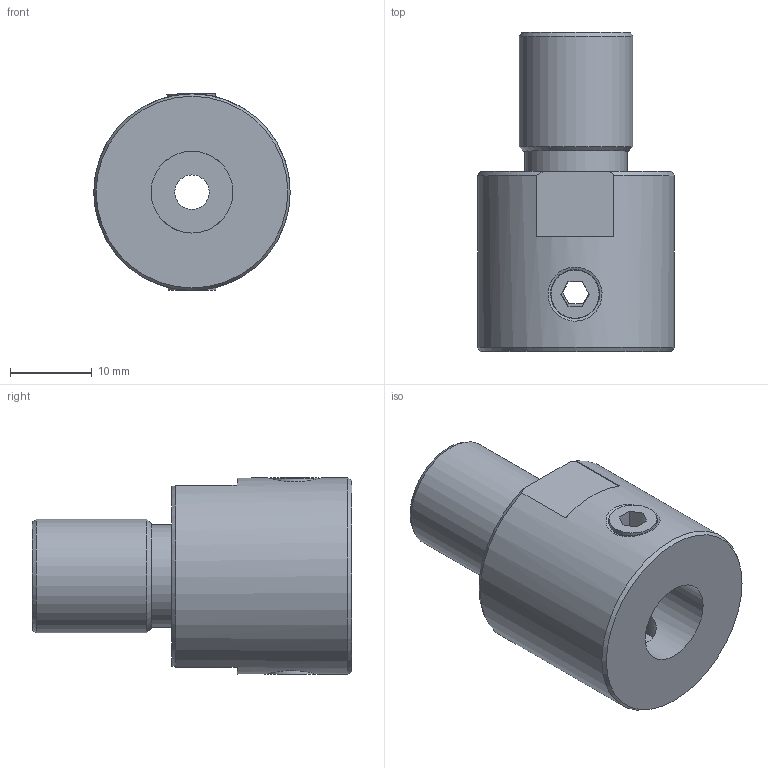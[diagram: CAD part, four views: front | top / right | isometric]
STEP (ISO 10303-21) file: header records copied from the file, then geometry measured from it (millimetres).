
FILE_DESCRIPTION(/* description */ (''),/* implementation_level */ '2;1');
FILE_NAME(/* name */ '',/* time_stamp */ '2025-10-17T09:06:04+03:00',/* author */ ('Arina Rekina'),/* organization */ (''),/* preprocessor_version */ 'ST-DEVELOPER v19.2',/* originating_system */ 'Autodesk Inventor 2024',/* authorisation */ '');
FILE_SCHEMA (('AUTOMOTIVE_DESIGN { 1 0 10303 214 3 1 1 }'));
Length unit declared in the file: millimetre
Products named in the file (1): Переходник к токарному 
патрону 10
Bounding box: 24 x 39 x 24.03 mm (x, y, z)
Volume: 10437.4 mm3; surface area: 4617.8 mm2
Topology: 3 solids, 3 shells, 45 faces, 108 edges, 73 vertices
Faces by surface type: plane 28, cylinder 9, cone 6, bspline 2
Full cylindrical faces by diameter (mm): 4.2 x1, 5.847 x1, 5.88 x1, 10 x1, 12.5 x1, 13.85 x1, 24 x1
Entity records: 1687 total; most frequent: CARTESIAN_POINT 523, ORIENTED_EDGE 216, DIRECTION 209, EDGE_CURVE 108, VERTEX_POINT 72, AXIS2_PLACEMENT_3D 72, LINE 65, VECTOR 65
